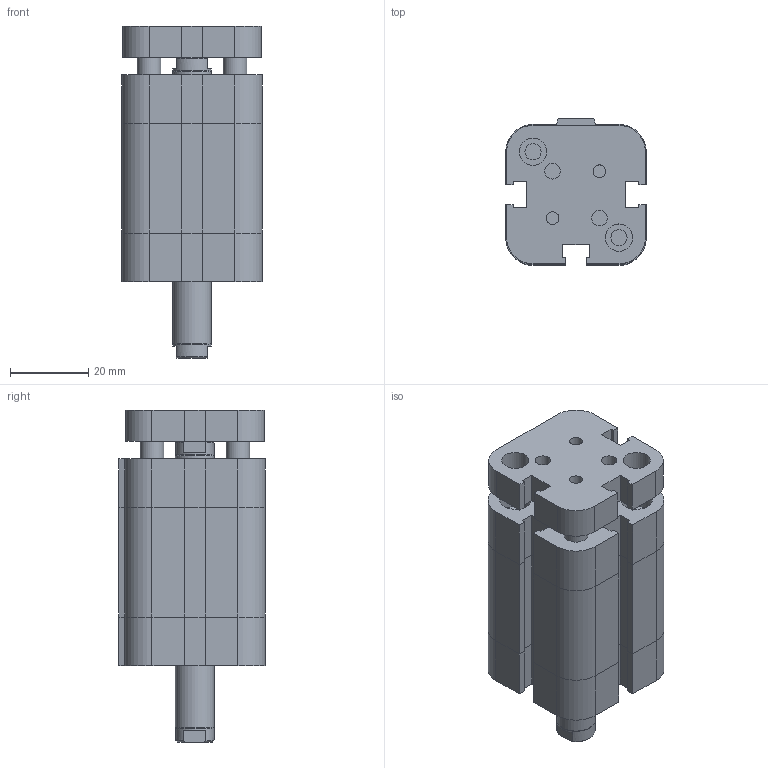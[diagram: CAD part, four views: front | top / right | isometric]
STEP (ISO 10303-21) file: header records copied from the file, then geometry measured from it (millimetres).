
FILE_DESCRIPTION((''),'2;1');
FILE_NAME('I:\Area Tecnica\Disegni\VARIE-3D\Componenti\EUROPE\15##_###_####_08_#\1581_20_0015_08_1.iam.stp','2009-04-20T15:30:18',(''),(''),'Autodesk Inventor 2009','Autodesk Inventor 2009','');
FILE_SCHEMA(('AUTOMOTIVE_DESIGN { 1 0 10303 214 1 1 1 1 }'));
Length unit declared in the file: millimetre
Products named in the file (3): 1581_20_0015_08_1; 1581_20_0015_08_1_C; 1561_20_0015_08_1_SA
Assembly tree (2 placements, depth 2):
  1581_20_0015_08_1
    1581_20_0015_08_1_C
    1561_20_0015_08_1_SA
Bounding box: 36 x 37.5 x 85 mm (x, y, z)
Volume: 70073.2 mm3; surface area: 23790.2 mm2
Topology: 2 solids, 2 shells, 209 faces, 490 edges, 306 vertices
Faces by surface type: plane 135, bspline 47, cylinder 21, cone 6
Full cylindrical faces by diameter (mm): 6 x2, 9.8 x2, 10 x1
Entity records: 6154 total; most frequent: CARTESIAN_POINT 1453, ORIENTED_EDGE 884, DIRECTION 862, EDGE_CURVE 442, VECTOR 340, LINE 340, VERTEX_POINT 290, EDGE_LOOP 276
